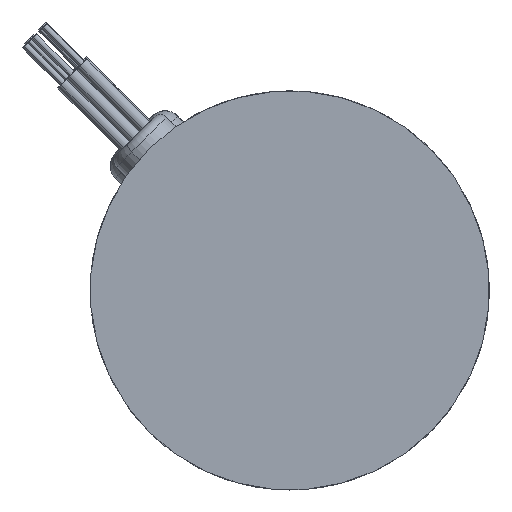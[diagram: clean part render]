
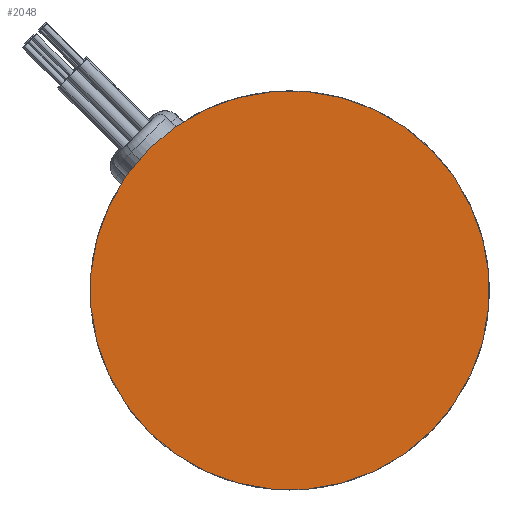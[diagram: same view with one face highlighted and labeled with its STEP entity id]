
A CAD part, left-side view. The second image highlights one B-rep face of the part: STEP entity #2048.
In plain terms, the highlighted planar face has unit normal (-1, 0, 0).
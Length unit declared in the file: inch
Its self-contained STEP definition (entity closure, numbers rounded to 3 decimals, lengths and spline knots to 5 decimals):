
#372 = DIRECTION ( 'NONE',  ( 0., 0.707, -0.707 ) ) ;
#851 = DIRECTION ( 'NONE',  ( 0., 0.707, -0.707 ) ) ;
#1077 = EDGE_CURVE ( 'NONE', #4009, #3362, #10099, .T. ) ;
#1303 = DIRECTION ( 'NONE',  ( 0., 0.707, -0.707 ) ) ;
#1373 = CIRCLE ( 'NONE', #6640, 1.125 ) ;
#1794 = AXIS2_PLACEMENT_3D ( 'NONE', #9092, #4318, #1303 ) ;
#2048 = ADVANCED_FACE ( 'NONE', ( #8975 ), #9028, .F. ) ;
#2902 = CARTESIAN_POINT ( 'NONE',  ( 0., -0.7955, 0.7955 ) ) ;
#3362 = VERTEX_POINT ( 'NONE', #2902 ) ;
#3393 = ORIENTED_EDGE ( 'NONE', *, *, #4173, .F. ) ;
#4009 = VERTEX_POINT ( 'NONE', #8433 ) ;
#4047 = CARTESIAN_POINT ( 'NONE',  ( 0., 0., 0. ) ) ;
#4173 = EDGE_CURVE ( 'NONE', #3362, #4009, #1373, .T. ) ;
#4318 = DIRECTION ( 'NONE',  ( 1., 0., 0. ) ) ;
#5569 = EDGE_LOOP ( 'NONE', ( #3393, #10018 ) ) ;
#5906 = DIRECTION ( 'NONE',  ( 1., 0., 0. ) ) ;
#6346 = DIRECTION ( 'NONE',  ( 1., 0., 0. ) ) ;
#6640 = AXIS2_PLACEMENT_3D ( 'NONE', #4047, #6346, #851 ) ;
#7172 = AXIS2_PLACEMENT_3D ( 'NONE', #9052, #5906, #372 ) ;
#8433 = CARTESIAN_POINT ( 'NONE',  ( 0., 0.7955, -0.7955 ) ) ;
#8975 = FACE_OUTER_BOUND ( 'NONE', #5569, .T. ) ;
#9028 = PLANE ( 'NONE',  #1794 ) ;
#9052 = CARTESIAN_POINT ( 'NONE',  ( 0., 0., 0. ) ) ;
#9092 = CARTESIAN_POINT ( 'NONE',  ( 0., 0., 0. ) ) ;
#10018 = ORIENTED_EDGE ( 'NONE', *, *, #1077, .F. ) ;
#10099 = CIRCLE ( 'NONE', #7172, 1.125 ) ;
